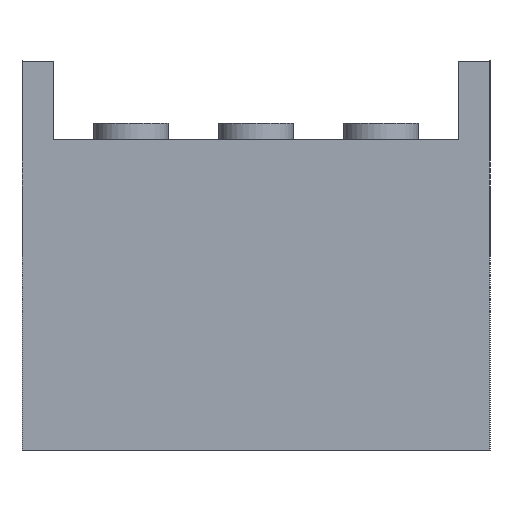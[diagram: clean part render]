
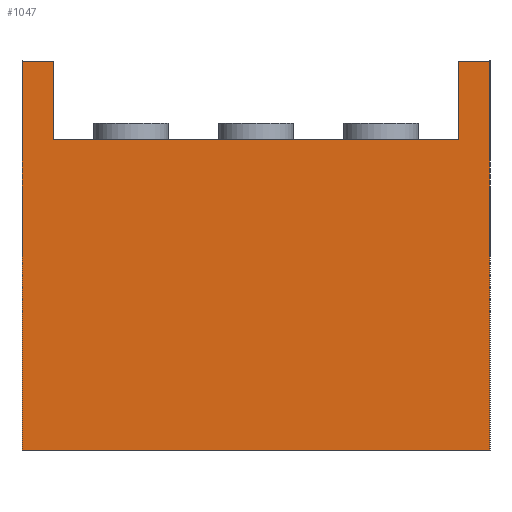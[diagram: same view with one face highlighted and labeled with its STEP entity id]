
A CAD part, left-side view. The second image highlights one B-rep face of the part: STEP entity #1047.
In plain terms, the highlighted planar face has unit normal (-1, 0, 0).
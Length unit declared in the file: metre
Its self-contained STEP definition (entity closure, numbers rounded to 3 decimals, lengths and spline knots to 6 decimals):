
#63=LINE('',#1730,#147);
#71=LINE('',#1747,#155);
#84=LINE('',#1771,#168);
#87=LINE('',#1777,#171);
#92=LINE('',#1786,#176);
#93=LINE('',#1788,#177);
#94=LINE('',#1791,#178);
#98=LINE('',#1798,#182);
#147=VECTOR('',#1445,0.01);
#155=VECTOR('',#1455,0.01);
#168=VECTOR('',#1476,0.01);
#171=VECTOR('',#1481,0.01);
#176=VECTOR('',#1490,0.01);
#177=VECTOR('',#1493,0.01);
#178=VECTOR('',#1496,0.01);
#182=VECTOR('',#1504,0.01);
#301=FACE_OUTER_BOUND('',#397,.T.);
#397=EDGE_LOOP('',(#915,#916,#917,#918,#919,#920,#921,#922));
#512=VERTEX_POINT('',#1727);
#513=VERTEX_POINT('',#1729);
#520=VERTEX_POINT('',#1744);
#521=VERTEX_POINT('',#1746);
#528=VERTEX_POINT('',#1769);
#530=VERTEX_POINT('',#1775);
#532=VERTEX_POINT('',#1784);
#533=VERTEX_POINT('',#1790);
#631=EDGE_CURVE('',#512,#513,#63,.T.);
#639=EDGE_CURVE('',#520,#521,#71,.T.);
#652=EDGE_CURVE('',#520,#528,#84,.T.);
#655=EDGE_CURVE('',#528,#530,#87,.T.);
#660=EDGE_CURVE('',#512,#532,#92,.T.);
#661=EDGE_CURVE('',#521,#532,#93,.T.);
#662=EDGE_CURVE('',#513,#533,#94,.T.);
#666=EDGE_CURVE('',#533,#530,#98,.T.);
#915=ORIENTED_EDGE('',*,*,#652,.T.);
#916=ORIENTED_EDGE('',*,*,#655,.T.);
#917=ORIENTED_EDGE('',*,*,#666,.F.);
#918=ORIENTED_EDGE('',*,*,#662,.F.);
#919=ORIENTED_EDGE('',*,*,#631,.F.);
#920=ORIENTED_EDGE('',*,*,#660,.T.);
#921=ORIENTED_EDGE('',*,*,#661,.F.);
#922=ORIENTED_EDGE('',*,*,#639,.F.);
#976=PLANE('',#1183);
#1047=ADVANCED_FACE('',(#301),#976,.T.);
#1183=AXIS2_PLACEMENT_3D('',#1799,#1505,#1506);
#1445=DIRECTION('',(0.,-1.,0.));
#1455=DIRECTION('',(0.,0.,1.));
#1476=DIRECTION('',(0.,-1.,0.));
#1481=DIRECTION('',(0.,0.,1.));
#1490=DIRECTION('',(0.,0.,1.));
#1493=DIRECTION('',(0.,-1.,0.));
#1496=DIRECTION('',(0.,0.,1.));
#1504=DIRECTION('',(0.,-1.,0.));
#1505=DIRECTION('center_axis',(-1.,0.,0.));
#1506=DIRECTION('ref_axis',(0.,-1.,0.));
#1727=CARTESIAN_POINT('',(-0.2,0.13,0.2));
#1729=CARTESIAN_POINT('',(-0.2,-0.13,0.2));
#1730=CARTESIAN_POINT('',(-0.2,0.15,0.2));
#1744=CARTESIAN_POINT('',(-0.2,0.15,0.));
#1746=CARTESIAN_POINT('',(-0.2,0.15,0.25));
#1747=CARTESIAN_POINT('',(-0.2,0.15,0.));
#1769=CARTESIAN_POINT('',(-0.2,-0.15,0.));
#1771=CARTESIAN_POINT('',(-0.2,0.15,0.));
#1775=CARTESIAN_POINT('',(-0.2,-0.15,0.25));
#1777=CARTESIAN_POINT('',(-0.2,-0.15,0.));
#1784=CARTESIAN_POINT('',(-0.2,0.13,0.25));
#1786=CARTESIAN_POINT('',(-0.2,0.13,0.));
#1788=CARTESIAN_POINT('',(-0.2,0.15,0.25));
#1790=CARTESIAN_POINT('',(-0.2,-0.13,0.25));
#1791=CARTESIAN_POINT('',(-0.2,-0.13,0.));
#1798=CARTESIAN_POINT('',(-0.2,-0.13,0.25));
#1799=CARTESIAN_POINT('Origin',(-0.2,0.15,0.));
